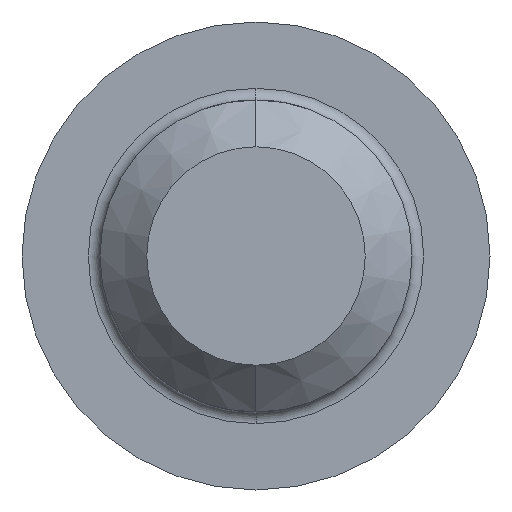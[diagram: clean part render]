
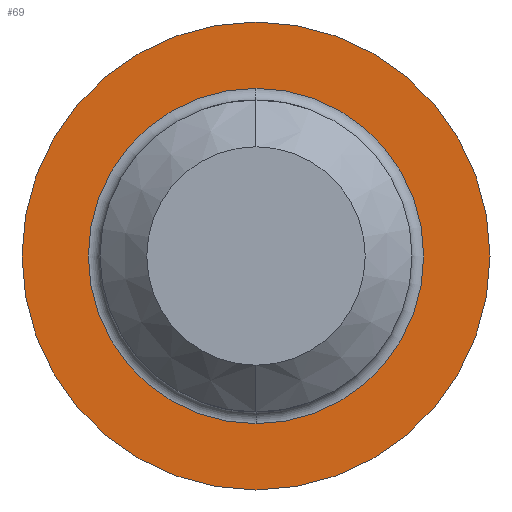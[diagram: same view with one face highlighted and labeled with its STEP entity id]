
A CAD part, left-side view. The second image highlights one B-rep face of the part: STEP entity #69.
In plain terms, the highlighted planar face has unit normal (-1, 0, 0).
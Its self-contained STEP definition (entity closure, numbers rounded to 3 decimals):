
#1 = DIRECTION ( 'NONE',  ( 0., 0., 1. ) ) ;
#63 = VERTEX_POINT ( 'NONE', #240 ) ;
#64 = EDGE_CURVE ( 'NONE', #63, #89, #241, .T. ) ;
#66 = EDGE_CURVE ( 'NONE', #89, #63, #239, .T. ) ;
#67 = ORIENTED_EDGE ( 'NONE', *, *, #111, .T. ) ;
#68 = EDGE_LOOP ( 'NONE', ( #129, #147 ) ) ;
#69 = ADVANCED_FACE ( 'NONE', ( #365, #307 ), #469, .F. ) ;
#70 = ORIENTED_EDGE ( 'NONE', *, *, #71, .T. ) ;
#71 = EDGE_CURVE ( 'NONE', #116, #120, #472, .T. ) ;
#89 = VERTEX_POINT ( 'NONE', #374 ) ;
#91 = EDGE_LOOP ( 'NONE', ( #70, #67 ) ) ;
#111 = EDGE_CURVE ( 'NONE', #120, #116, #363, .T. ) ;
#116 = VERTEX_POINT ( 'NONE', #465 ) ;
#120 = VERTEX_POINT ( 'NONE', #425 ) ;
#129 = ORIENTED_EDGE ( 'NONE', *, *, #64, .T. ) ;
#147 = ORIENTED_EDGE ( 'NONE', *, *, #66, .T. ) ;
#207 = CARTESIAN_POINT ( 'NONE',  ( 0., 0., 0. ) ) ;
#231 = DIRECTION ( 'NONE',  ( -1., 0., 0. ) ) ;
#232 = DIRECTION ( 'NONE',  ( 0., 0., 1. ) ) ;
#233 = DIRECTION ( 'NONE',  ( -1., 0., 0. ) ) ;
#234 = CARTESIAN_POINT ( 'NONE',  ( 0., 0., 0. ) ) ;
#235 = AXIS2_PLACEMENT_3D ( 'NONE', #234, #231, #1 ) ;
#239 = CIRCLE ( 'NONE', #235, 6. ) ;
#240 = CARTESIAN_POINT ( 'NONE',  ( 0., 0., 6. ) ) ;
#241 = CIRCLE ( 'NONE', #245, 6. ) ;
#245 = AXIS2_PLACEMENT_3D ( 'NONE', #207, #233, #232 ) ;
#307 = FACE_OUTER_BOUND ( 'NONE', #68, .T. ) ;
#325 = CARTESIAN_POINT ( 'NONE',  ( 0., 6., 0. ) ) ;
#334 = DIRECTION ( 'NONE',  ( 1., 0., 0. ) ) ;
#352 = CARTESIAN_POINT ( 'NONE',  ( 0., 0., 0. ) ) ;
#356 = CARTESIAN_POINT ( 'NONE',  ( 0., 0., 0. ) ) ;
#358 = AXIS2_PLACEMENT_3D ( 'NONE', #356, #423, #422 ) ;
#363 = CIRCLE ( 'NONE', #358, 4.3 ) ;
#365 = FACE_BOUND ( 'NONE', #91, .T. ) ;
#368 = DIRECTION ( 'NONE',  ( 0., 0., -1. ) ) ;
#374 = CARTESIAN_POINT ( 'NONE',  ( 0., 0., -6. ) ) ;
#422 = DIRECTION ( 'NONE',  ( 0., 0., -1. ) ) ;
#423 = DIRECTION ( 'NONE',  ( 1., 0., 0. ) ) ;
#425 = CARTESIAN_POINT ( 'NONE',  ( 0., 0., 4.3 ) ) ;
#453 = AXIS2_PLACEMENT_3D ( 'NONE', #325, #466, #368 ) ;
#465 = CARTESIAN_POINT ( 'NONE',  ( 0., 0., -4.3 ) ) ;
#466 = DIRECTION ( 'NONE',  ( 1., 0., 0. ) ) ;
#469 = PLANE ( 'NONE',  #453 ) ;
#470 = DIRECTION ( 'NONE',  ( 0., 0., -1. ) ) ;
#471 = AXIS2_PLACEMENT_3D ( 'NONE', #352, #334, #470 ) ;
#472 = CIRCLE ( 'NONE', #471, 4.3 ) ;
